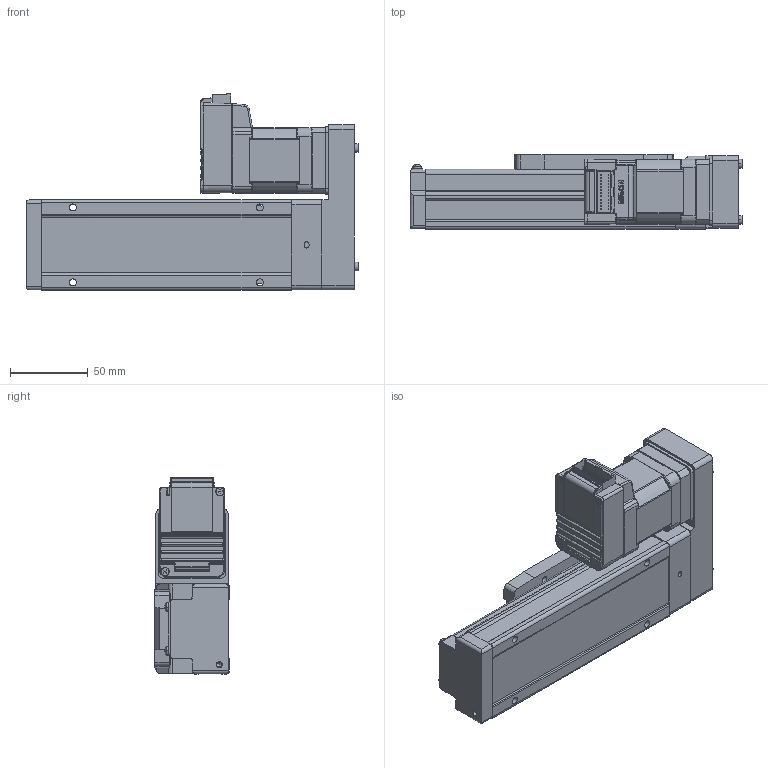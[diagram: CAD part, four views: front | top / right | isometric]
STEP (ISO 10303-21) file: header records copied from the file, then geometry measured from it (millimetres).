
FILE_DESCRIPTION (( 'STEP AP214' ), '1' );
FILE_NAME ('LEFS3(+)-25LNM1□-50-17L.STEP', '2023-05-31T05:11:00', ( '' ), ( '' ), 'SwSTEP 2.0', 'SolidWorks 2019', '' );
FILE_SCHEMA (( 'AUTOMOTIVE_DESIGN' ));
Length unit declared in the file: millimetre
Products named in the file (5): LEFS3(+)-25R(L)NM1仩_BODY_50; LEFS3(+)-25R(L)NM1仩_MOTOR Flange; LEFS3(+)-25NM1_TABLE; LEFS3(+)-25LNM1□-50-17L; CM3(+)-17L50A
Assembly tree (4 placements, depth 2):
  LEFS3(+)-25LNM1□-50-17L
    LEFS3(+)-25R(L)NM1仩_BODY_50
    LEFS3(+)-25NM1_TABLE
    LEFS3(+)-25R(L)NM1仩_MOTOR Flange
    CM3(+)-17L50A
Bounding box: 212.9 x 48 x 125.85 mm (x, y, z)
Volume: 652660.6 mm3; surface area: 103039.9 mm2
Topology: 5 solids, 5 shells, 1011 faces, 2596 edges, 1636 vertices
Faces by surface type: plane 529, cylinder 310, cone 83, torus 39, bspline 29, sphere 21
Entity records: 41365 total; most frequent: CARTESIAN_POINT 7434, ORIENTED_EDGE 5130, DIRECTION 4944, EDGE_CURVE 2565, AXIS2_PLACEMENT_3D 1658, VERTEX_POINT 1636, LINE 1628, VECTOR 1628
